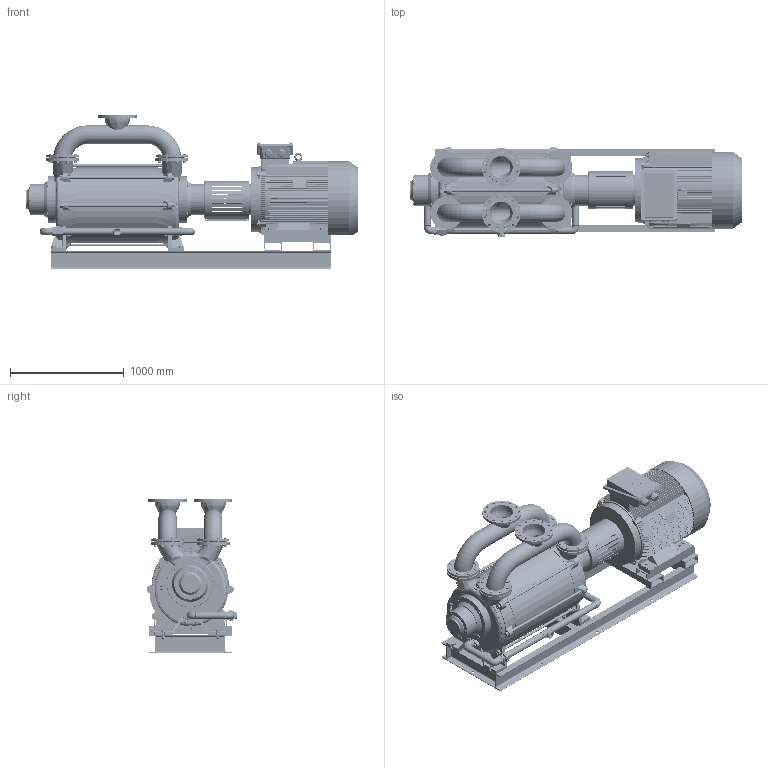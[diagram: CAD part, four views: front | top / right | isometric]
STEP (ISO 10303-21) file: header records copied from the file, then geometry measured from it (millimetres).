
FILE_DESCRIPTION (( 'STEP AP214' ), '1' );
FILE_NAME ('GMPT 520 600 MONTAJ IE3 MOTORLU.STEP', '2024-05-15T05:23:35', ( '' ), ( '' ), 'SwSTEP 2.0', 'SolidWorks 2024', '' );
FILE_SCHEMA (( 'AUTOMOTIVE_DESIGN' ));
Length unit declared in the file: millimetre
Products named in the file (1): GMPT 520 600 MONTAJ IE3 MOTORLU
Bounding box: 2914.5 x 792.54 x 1355.79 mm (x, y, z)
Volume: 798346331.7 mm3; surface area: 24142882.8 mm2
Topology: 127 solids, 150 shells, 8580 faces, 21196 edges, 13093 vertices
Faces by surface type: plane 3726, cylinder 2017, cone 1657, bspline 804, torus 329, sphere 47
Entity records: 361200 total; most frequent: CARTESIAN_POINT 166005, ORIENTED_EDGE 42236, DIRECTION 37719, EDGE_CURVE 21118, AXIS2_PLACEMENT_3D 14409, VERTEX_POINT 13091, EDGE_LOOP 9279, LINE 8901
